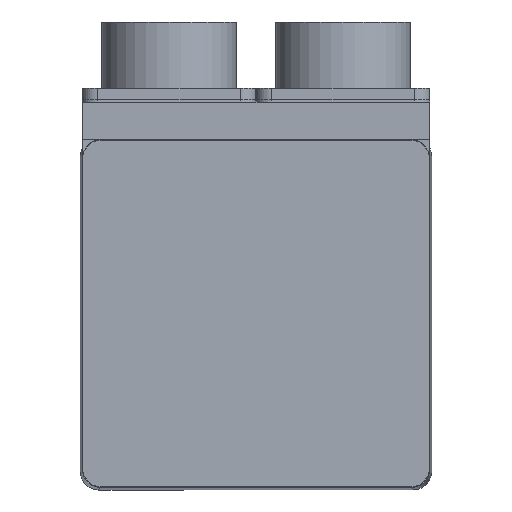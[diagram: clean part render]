
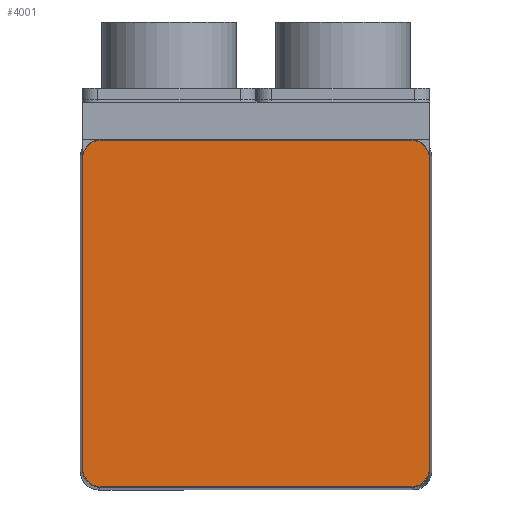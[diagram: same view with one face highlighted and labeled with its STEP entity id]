
A CAD part, top view. The second image highlights one B-rep face of the part: STEP entity #4001.
In plain terms, the highlighted planar face has unit normal (0, 0, 1).
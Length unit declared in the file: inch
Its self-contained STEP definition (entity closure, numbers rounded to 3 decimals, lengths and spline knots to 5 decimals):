
#3899=CARTESIAN_POINT('',(-1.0055,-1.125,3.636));
#3900=VERTEX_POINT('',#3899);
#3901=CARTESIAN_POINT('',(-1.125,-1.0055,3.636));
#3902=VERTEX_POINT('',#3901);
#3903=CARTESIAN_POINT('',(-1.0055,-1.0055,3.636));
#3904=DIRECTION('',(0.0,0.0,-1.));
#3905=DIRECTION('',(-0.707,-0.707,0.0));
#3906=AXIS2_PLACEMENT_3D('',#3903,#3904,#3905);
#3907=CIRCLE('',#3906,0.1195);
#3908=EDGE_CURVE('',#3900,#3902,#3907,.T.);
#3936=CARTESIAN_POINT('',(0.,0.,3.636));
#3937=DIRECTION('',(0.0,0.0,1.0));
#3938=DIRECTION('',(1.0,0.0,0.0));
#3939=AXIS2_PLACEMENT_3D('',#3936,#3937,#3938);
#3940=PLANE('',#3939);
#3941=ORIENTED_EDGE('',*,*,#3908,.F.);
#3942=CARTESIAN_POINT('',(1.0055,-1.125,3.636));
#3943=VERTEX_POINT('',#3942);
#3944=CARTESIAN_POINT('',(1.0055,-1.125,3.636));
#3945=DIRECTION('',(-1.0,0.0,0.0));
#3946=VECTOR('',#3945,2.011);
#3947=LINE('',#3944,#3946);
#3948=EDGE_CURVE('',#3943,#3900,#3947,.T.);
#3949=ORIENTED_EDGE('',*,*,#3948,.F.);
#3950=CARTESIAN_POINT('',(1.125,-1.0055,3.636));
#3951=VERTEX_POINT('',#3950);
#3952=CARTESIAN_POINT('',(1.0055,-1.0055,3.636));
#3953=DIRECTION('',(0.0,0.0,-1.));
#3954=DIRECTION('',(0.707,-0.707,0.0));
#3955=AXIS2_PLACEMENT_3D('',#3952,#3953,#3954);
#3956=CIRCLE('',#3955,0.1195);
#3957=EDGE_CURVE('',#3951,#3943,#3956,.T.);
#3958=ORIENTED_EDGE('',*,*,#3957,.F.);
#3959=CARTESIAN_POINT('',(1.125,1.0055,3.636));
#3960=VERTEX_POINT('',#3959);
#3961=CARTESIAN_POINT('',(1.125,1.0055,3.636));
#3962=DIRECTION('',(0.0,-1.0,0.0));
#3963=VECTOR('',#3962,2.011);
#3964=LINE('',#3961,#3963);
#3965=EDGE_CURVE('',#3960,#3951,#3964,.T.);
#3966=ORIENTED_EDGE('',*,*,#3965,.F.);
#3967=CARTESIAN_POINT('',(1.0055,1.125,3.636));
#3968=VERTEX_POINT('',#3967);
#3969=CARTESIAN_POINT('',(1.0055,1.0055,3.636));
#3970=DIRECTION('',(0.0,0.0,-1.));
#3971=DIRECTION('',(0.707,0.707,0.0));
#3972=AXIS2_PLACEMENT_3D('',#3969,#3970,#3971);
#3973=CIRCLE('',#3972,0.1195);
#3974=EDGE_CURVE('',#3968,#3960,#3973,.T.);
#3975=ORIENTED_EDGE('',*,*,#3974,.F.);
#3976=CARTESIAN_POINT('',(-1.0055,1.125,3.636));
#3977=VERTEX_POINT('',#3976);
#3978=CARTESIAN_POINT('',(-1.0055,1.125,3.636));
#3979=DIRECTION('',(1.0,0.0,0.0));
#3980=VECTOR('',#3979,2.011);
#3981=LINE('',#3978,#3980);
#3982=EDGE_CURVE('',#3977,#3968,#3981,.T.);
#3983=ORIENTED_EDGE('',*,*,#3982,.F.);
#3984=CARTESIAN_POINT('',(-1.125,1.0055,3.636));
#3985=VERTEX_POINT('',#3984);
#3986=CARTESIAN_POINT('',(-1.0055,1.0055,3.636));
#3987=DIRECTION('',(0.0,0.0,-1.));
#3988=DIRECTION('',(-0.707,0.707,0.0));
#3989=AXIS2_PLACEMENT_3D('',#3986,#3987,#3988);
#3990=CIRCLE('',#3989,0.1195);
#3991=EDGE_CURVE('',#3985,#3977,#3990,.T.);
#3992=ORIENTED_EDGE('',*,*,#3991,.F.);
#3993=CARTESIAN_POINT('',(-1.125,-1.0055,3.636));
#3994=DIRECTION('',(0.0,1.0,0.0));
#3995=VECTOR('',#3994,2.011);
#3996=LINE('',#3993,#3995);
#3997=EDGE_CURVE('',#3902,#3985,#3996,.T.);
#3998=ORIENTED_EDGE('',*,*,#3997,.F.);
#3999=EDGE_LOOP('',(#3941,#3949,#3958,#3966,#3975,#3983,#3992,#3998));
#4000=FACE_OUTER_BOUND('',#3999,.T.);
#4001=ADVANCED_FACE('',(#4000),#3940,.T.);
